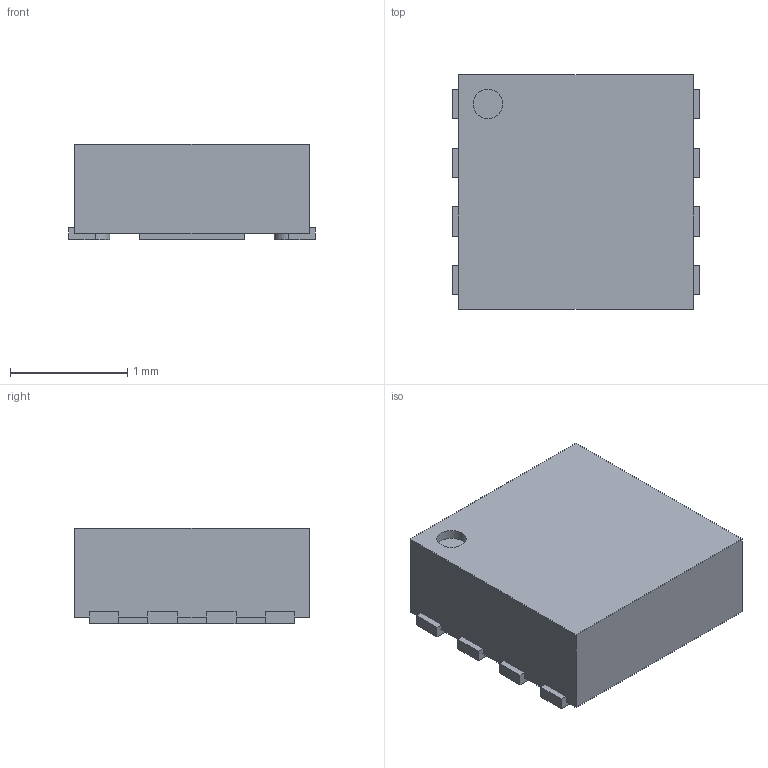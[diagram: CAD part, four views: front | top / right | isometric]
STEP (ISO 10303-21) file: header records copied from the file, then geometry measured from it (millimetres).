
FILE_DESCRIPTION(('FreeCAD Model'),'2;1');
FILE_NAME('/var/www/3D/0T/405668.1.1.stp','2020-04-08T17:47:45',( 'Author'),(''),'Open CASCADE STEP processor 6.9','FreeCAD','Unknown' );
FILE_SCHEMA(('AUTOMOTIVE_DESIGN { 1 0 10303 214 1 1 1 1 }'));
Length unit declared in the file: millimetre
Products named in the file (4): ASSEMBLY; Body; ThermalPin; PinsArrayLR
Assembly tree (3 placements, depth 2):
  ASSEMBLY
    Body
    ThermalPin
    PinsArrayLR
Bounding box: 2.1 x 2 x 0.81 mm (x, y, z)
Volume: 3.2 mm3; surface area: 19.7 mm2
Topology: 10 solids, 10 shells, 62 faces, 123 edges, 82 vertices
Faces by surface type: plane 53, cylinder 9
Full cylindrical faces by diameter (mm): 0.25 x1
Entity records: 3349 total; most frequent: CARTESIAN_POINT 565, DIRECTION 511, LINE 333, VECTOR 333, ORIENTED_EDGE 246, PCURVE 246, DEFINITIONAL_REPRESENTATION 246, EDGE_CURVE 123
